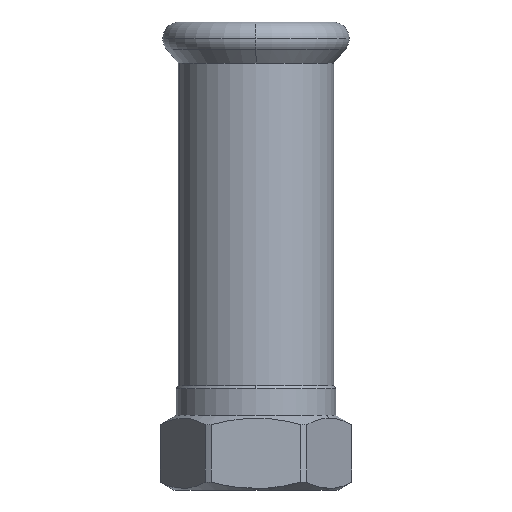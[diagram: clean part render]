
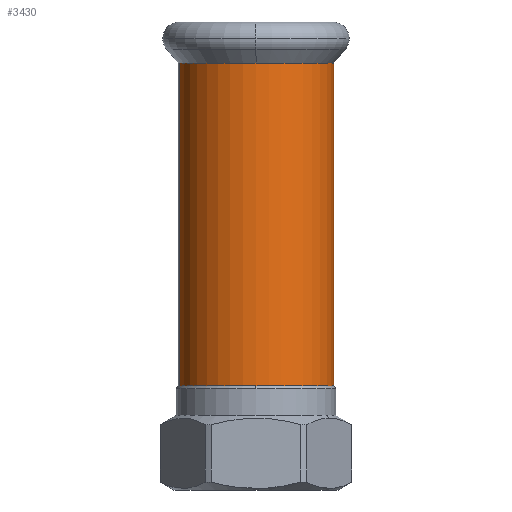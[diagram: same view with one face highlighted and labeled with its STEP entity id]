
A CAD part, left-side view. The second image highlights one B-rep face of the part: STEP entity #3430.
In plain terms, the highlighted cylindrical face has radius 15.65 mm (diameter 31.3 mm), a partial arc.
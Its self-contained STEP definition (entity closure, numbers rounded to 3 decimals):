
#2190=CARTESIAN_POINT('',(49.067,47.456,65.345));
#2200=DIRECTION('',(0.,0.,1.));
#2210=DIRECTION('',(-0.978,0.21,
0.));
#2220=AXIS2_PLACEMENT_3D('',#2190,#2200,#2210);
#2230=CIRCLE('',#2220,15.65);
#2260=CARTESIAN_POINT('',(49.067,63.106,65.345));
#2270=VERTEX_POINT('',#2260);
#2510=CARTESIAN_POINT('',(33.765,50.736,
65.345));
#2520=VERTEX_POINT('',#2510);
#2550=EDGE_CURVE('',#2270,#2520,#2230,.T.);
#3040=CARTESIAN_POINT('',(49.067,47.456,31.51));
#3050=DIRECTION('',(0.,0.,-1.));
#3060=DIRECTION('',(0.,-1.,0.));
#3070=AXIS2_PLACEMENT_3D('',#3040,#3050,#3060);
#3080=CYLINDRICAL_SURFACE('',#3070,15.65);
#3090=CARTESIAN_POINT('',(49.067,31.806,65.345));
#3100=VERTEX_POINT('',#3090);
#3110=EDGE_CURVE('',#2520,#3100,#2230,.T.);
#3120=ORIENTED_EDGE('',*,*,#3110,.F.);
#3130=CARTESIAN_POINT('',(49.067,31.806,31.51));
#3140=DIRECTION('',(0.,0.,-1.));
#3150=VECTOR('',#3140,1.);
#3160=LINE('',#3130,#3150);
#3170=CARTESIAN_POINT('',(49.067,31.806,0.494));
#3180=VERTEX_POINT('',#3170);
#3190=EDGE_CURVE('',#3100,#3180,#3160,.T.);
#3200=ORIENTED_EDGE('',*,*,#3190,.F.);
#3210=CARTESIAN_POINT('',(49.067,47.456,0.494));
#3220=DIRECTION('',(0.,0.,-1.));
#3230=DIRECTION('',(-0.978,0.21,
0.));
#3240=AXIS2_PLACEMENT_3D('',#3210,#3220,#3230);
#3250=CIRCLE('',#3240,15.65);
#3260=CARTESIAN_POINT('',(33.765,50.736,
0.494));
#3270=VERTEX_POINT('',#3260);
#3280=EDGE_CURVE('',#3180,#3270,#3250,.T.);
#3290=ORIENTED_EDGE('',*,*,#3280,.F.);
#3300=CARTESIAN_POINT('',(49.067,63.106,0.494));
#3310=VERTEX_POINT('',#3300);
#3320=EDGE_CURVE('',#3270,#3310,#3250,.T.);
#3330=ORIENTED_EDGE('',*,*,#3320,.F.);
#3340=CARTESIAN_POINT('',(49.067,63.106,31.51));
#3350=DIRECTION('',(0.,0.,-1.));
#3360=VECTOR('',#3350,1.);
#3370=LINE('',#3340,#3360);
#3380=EDGE_CURVE('',#2270,#3310,#3370,.T.);
#3390=ORIENTED_EDGE('',*,*,#3380,.T.);
#3400=ORIENTED_EDGE('',*,*,#2550,.F.);
#3410=EDGE_LOOP('',(#3400,#3390,#3330,#3290,#3200,#3120));
#3420=FACE_OUTER_BOUND('',#3410,.T.);
#3430=ADVANCED_FACE('',(#3420),#3080,.T.);
